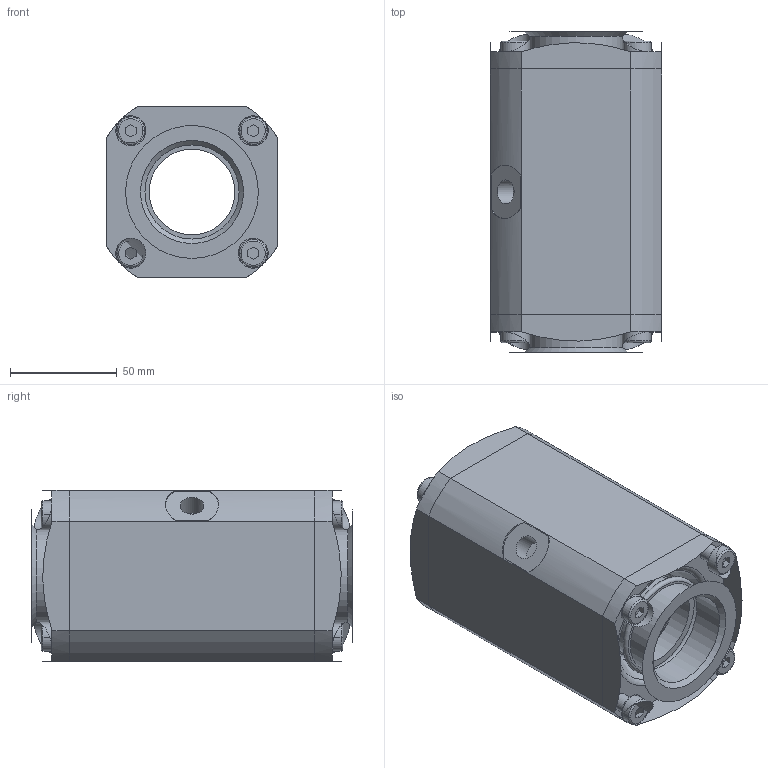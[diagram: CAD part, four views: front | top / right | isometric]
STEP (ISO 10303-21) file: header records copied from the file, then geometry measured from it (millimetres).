
FILE_DESCRIPTION(/* description */ (''),/* implementation_level */ '2;1');
FILE_NAME(/* name */ 'Serie20_QV40_assembly_VEREINFACHT.stp',/* time_stamp */ '2013-10-28T20:19:02+01:00',/* author */ (''),/* organization */ (''),/* preprocessor_version */ 'ST-DEVELOPER v11',/* originating_system */ 'SIEMENS PLM Software NX 7.5',/* authorisation */ '');
FILE_SCHEMA (('AUTOMOTIVE_DESIGN { 1 0 10303 214 1 1 1 1 }'));
Length unit declared in the file: millimetre
Products named in the file (1): memdC9A8e4cb
Bounding box: 80 x 150 x 80 mm (x, y, z)
Volume: 677057.5 mm3; surface area: 109852.1 mm2
Topology: 11 solids, 11 shells, 252 faces, 579 edges, 367 vertices
Faces by surface type: plane 115, cylinder 77, cone 32, torus 28
Full cylindrical faces by diameter (mm): 6.8 x8, 8 x8, 11.113 x1, 14 x8, 40 x3, 44.054 x2
Entity records: 6796 total; most frequent: CARTESIAN_POINT 1294, DIRECTION 1194, ORIENTED_EDGE 952, AXIS2_PLACEMENT_3D 480, EDGE_CURVE 476, EDGE_LOOP 350, VERTEX_POINT 330, ADVANCED_FACE 252
